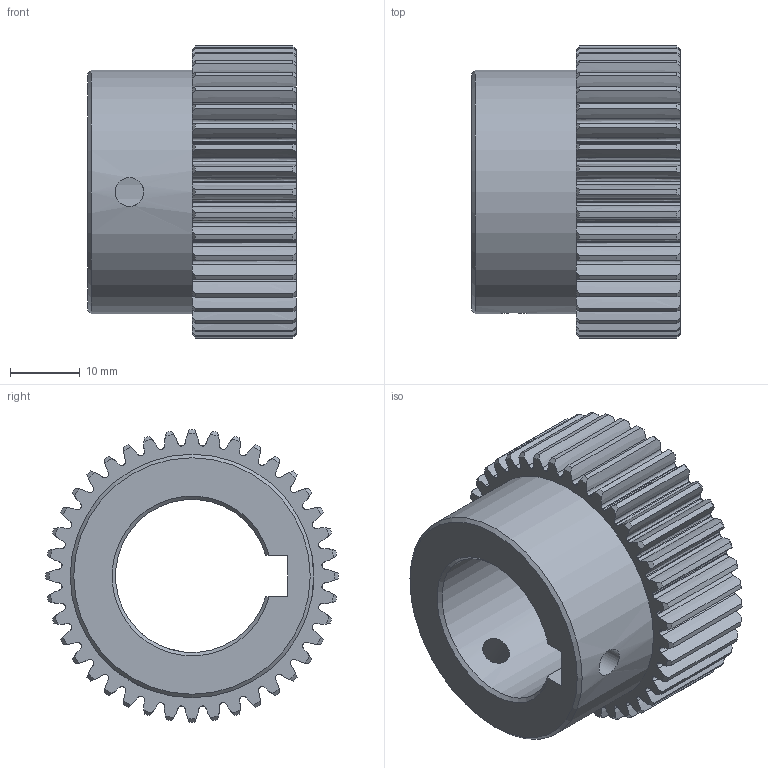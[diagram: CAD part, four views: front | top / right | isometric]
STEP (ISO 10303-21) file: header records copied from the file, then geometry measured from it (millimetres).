
FILE_DESCRIPTION(('STEP AP214'), '1');
FILE_NAME('GS1-T40D22 - Øåñòåðíÿ', '2018-06-14T06:35:48', (''), (''), 'ASCON STEP Converter 1.3', 'ASCON Math Kernel', '');
FILE_SCHEMA(('AUTOMOTIVE_DESIGN { 1 0 10303 214 3 1 1}'));
Length unit declared in the file: millimetre
Products named in the file (1): GS1-T40D22
Bounding box: 30 x 42 x 42 mm (x, y, z)
Volume: 21051.4 mm3; surface area: 9257 mm2
Topology: 1 solids, 1 shells, 335 faces, 997 edges, 667 vertices
Faces by surface type: extrusion 160, cylinder 86, cone 83, plane 6
Full cylindrical faces by diameter (mm): 4.134 x2, 35 x1
Entity records: 18695 total; most frequent: CARTESIAN_POINT 7539, ORIENTED_EDGE 1982, DIRECTION 1268, EDGE_CURVE 991, VERTEX_POINT 663, B_SPLINE_CURVE_WITH_KNOTS 647, AXIS2_PLACEMENT_3D 428, VECTOR 412
